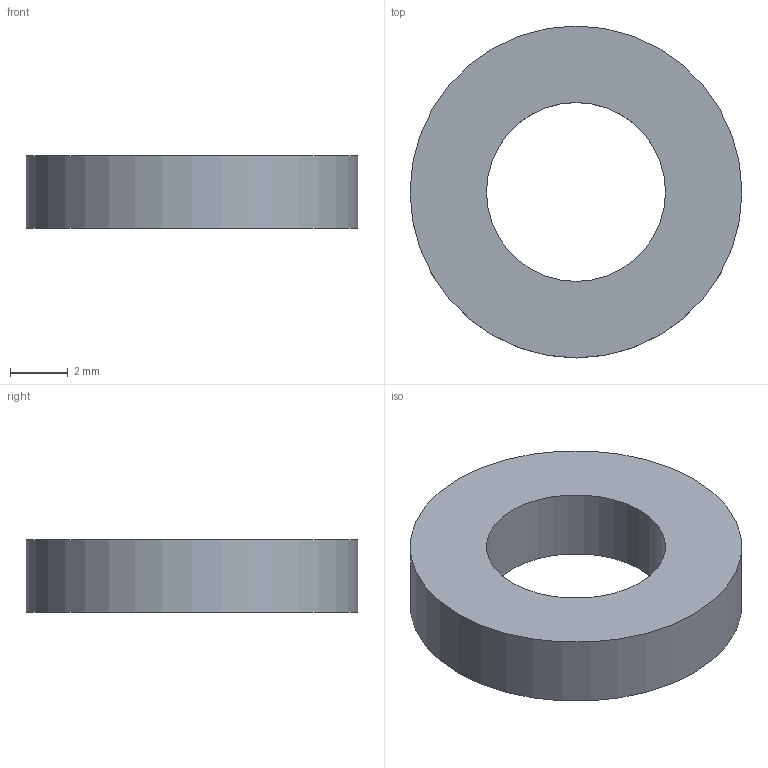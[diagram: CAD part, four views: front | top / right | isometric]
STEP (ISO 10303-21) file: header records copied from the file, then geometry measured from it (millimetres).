
FILE_DESCRIPTION(/* description */ ('SpacerMendrel'),/* implementation_level */ '2;1');
FILE_NAME(/* name */ 'ITPTv2.01.00.35.stp',/* time_stamp */ '2025-02-12T11:22:27+01:00',/* author */ ('Rüdiger Widera'),/* organization */ (''),/* preprocessor_version */ 'ST-DEVELOPER v19.2',/* originating_system */ 'Autodesk Inventor 2024',/* authorisation */ '');
FILE_SCHEMA (('AUTOMOTIVE_DESIGN { 1 0 10303 214 3 1 1 }'));
Length unit declared in the file: millimetre
Products named in the file (1): ITPTv2.01.00.35
Bounding box: 11.5 x 11.5 x 2.5 mm (x, y, z)
Volume: 184.2 mm3; surface area: 286.4 mm2
Topology: 1 solids, 1 shells, 4 faces, 6 edges, 4 vertices
Faces by surface type: cylinder 2, plane 2
Full cylindrical faces by diameter (mm): 6.2 x1, 11.5 x1
Entity records: 141 total; most frequent: DIRECTION 20, CARTESIAN_POINT 15, ORIENTED_EDGE 12, AXIS2_PLACEMENT_3D 9, EDGE_LOOP 6, EDGE_CURVE 6, FACE_OUTER_BOUND 4, CIRCLE 4
